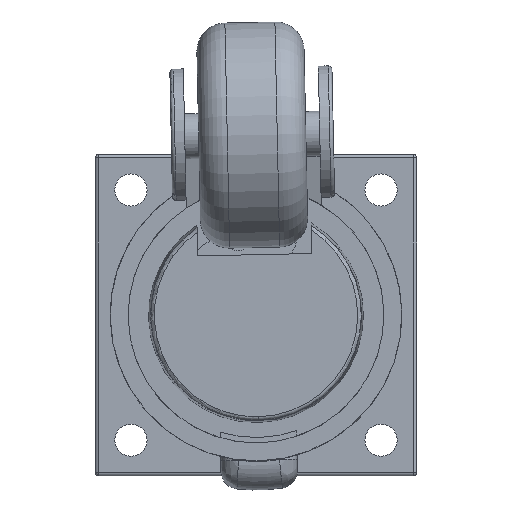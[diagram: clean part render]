
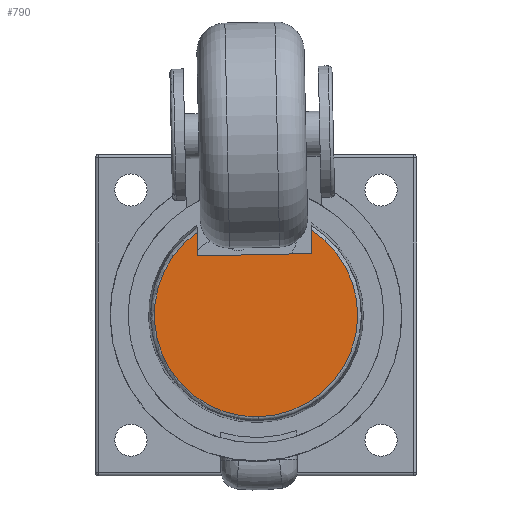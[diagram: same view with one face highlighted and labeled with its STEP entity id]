
A CAD part, front view. The second image highlights one B-rep face of the part: STEP entity #790.
In plain terms, the highlighted planar face has unit normal (0, -1, 0).
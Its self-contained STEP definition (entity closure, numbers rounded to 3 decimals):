
#298 = VECTOR ( 'NONE', #1246, 1000. ) ;
#315 = CARTESIAN_POINT ( 'NONE',  ( 16., -91.46, 16.9 ) ) ;
#509 = VERTEX_POINT ( 'NONE', #315 ) ;
#790 = ADVANCED_FACE ( 'NONE', ( #1352 ), #6575, .T. ) ;
#909 = DIRECTION ( 'NONE',  ( 0., 0., -1. ) ) ;
#1013 = VERTEX_POINT ( 'NONE', #3293 ) ;
#1155 = DIRECTION ( 'NONE',  ( 0., -1., 0. ) ) ;
#1197 = LINE ( 'NONE', #7355, #5266 ) ;
#1246 = DIRECTION ( 'NONE',  ( -1., 0., 0. ) ) ;
#1264 = DIRECTION ( 'NONE',  ( 0., 0., -1. ) ) ;
#1341 = AXIS2_PLACEMENT_3D ( 'NONE', #6596, #4652, #7844 ) ;
#1342 = VERTEX_POINT ( 'NONE', #6426 ) ;
#1352 = FACE_OUTER_BOUND ( 'NONE', #6056, .T. ) ;
#1437 = VECTOR ( 'NONE', #7495, 1000. ) ;
#2002 = CARTESIAN_POINT ( 'NONE',  ( 16., -91.46, 23.54 ) ) ;
#2089 = ORIENTED_EDGE ( 'NONE', *, *, #2278, .T. ) ;
#2278 = EDGE_CURVE ( 'NONE', #1013, #5754, #6632, .T. ) ;
#2500 = CIRCLE ( 'NONE', #6097, 28.462 ) ;
#2587 = CARTESIAN_POINT ( 'NONE',  ( -15., -91.46, 16.9 ) ) ;
#2847 = EDGE_CURVE ( 'NONE', #509, #1013, #6000, .T. ) ;
#3293 = CARTESIAN_POINT ( 'NONE',  ( -16., -91.46, 16.9 ) ) ;
#3518 = CARTESIAN_POINT ( 'NONE',  ( -16., -91.46, 23.54 ) ) ;
#4652 = DIRECTION ( 'NONE',  ( 0., -1., 0. ) ) ;
#4844 = ORIENTED_EDGE ( 'NONE', *, *, #7663, .T. ) ;
#5126 = VERTEX_POINT ( 'NONE', #2002 ) ;
#5158 = CARTESIAN_POINT ( 'NONE',  ( 0., -91.46, 0. ) ) ;
#5266 = VECTOR ( 'NONE', #5364, 1000. ) ;
#5364 = DIRECTION ( 'NONE',  ( 0., 0., -1. ) ) ;
#5391 = ORIENTED_EDGE ( 'NONE', *, *, #5677, .T. ) ;
#5677 = EDGE_CURVE ( 'NONE', #5126, #509, #1197, .T. ) ;
#5754 = VERTEX_POINT ( 'NONE', #3518 ) ;
#6000 = LINE ( 'NONE', #2587, #298 ) ;
#6056 = EDGE_LOOP ( 'NONE', ( #2089, #8162, #4844, #5391, #6490 ) ) ;
#6097 = AXIS2_PLACEMENT_3D ( 'NONE', #5158, #1155, #1264 ) ;
#6292 = DIRECTION ( 'NONE',  ( 0., -1., 0. ) ) ;
#6426 = CARTESIAN_POINT ( 'NONE',  ( 0., -91.46, -28.462 ) ) ;
#6490 = ORIENTED_EDGE ( 'NONE', *, *, #2847, .T. ) ;
#6575 = PLANE ( 'NONE',  #1341 ) ;
#6596 = CARTESIAN_POINT ( 'NONE',  ( 0., -91.46, -29.447 ) ) ;
#6632 = LINE ( 'NONE', #8098, #1437 ) ;
#6677 = CIRCLE ( 'NONE', #7536, 28.462 ) ;
#6883 = CARTESIAN_POINT ( 'NONE',  ( 0., -91.46, 0. ) ) ;
#7355 = CARTESIAN_POINT ( 'NONE',  ( 16., -91.46, 16.9 ) ) ;
#7495 = DIRECTION ( 'NONE',  ( 0., 0., 1. ) ) ;
#7536 = AXIS2_PLACEMENT_3D ( 'NONE', #6883, #6292, #909 ) ;
#7663 = EDGE_CURVE ( 'NONE', #1342, #5126, #6677, .T. ) ;
#7844 = DIRECTION ( 'NONE',  ( -1., 0., 0. ) ) ;
#7918 = EDGE_CURVE ( 'NONE', #5754, #1342, #2500, .T. ) ;
#8098 = CARTESIAN_POINT ( 'NONE',  ( -16., -91.46, 16.9 ) ) ;
#8162 = ORIENTED_EDGE ( 'NONE', *, *, #7918, .T. ) ;
